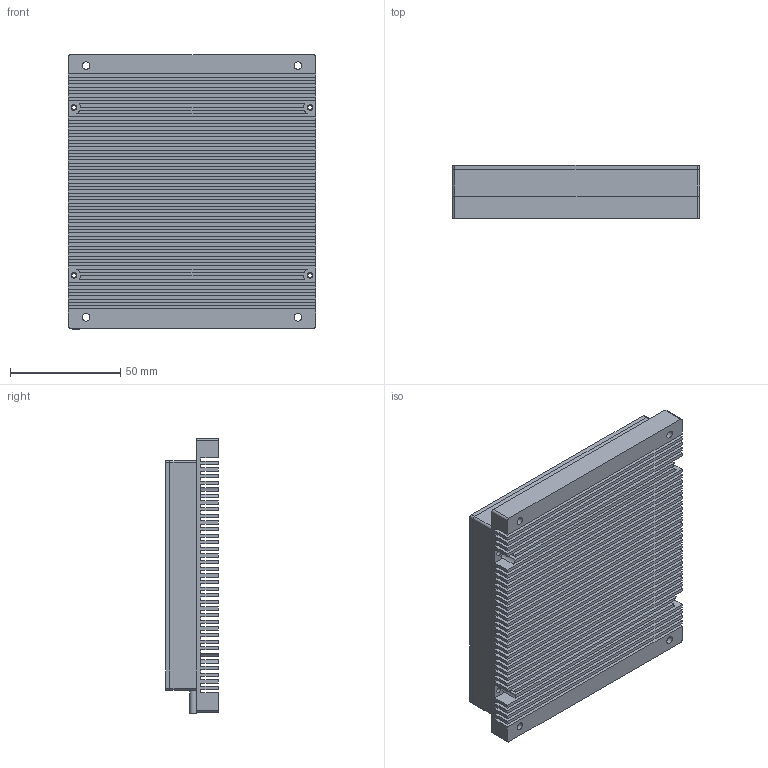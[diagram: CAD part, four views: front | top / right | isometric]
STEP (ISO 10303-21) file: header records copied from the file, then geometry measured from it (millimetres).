
FILE_DESCRIPTION(/* description */ (''),/* implementation_level */ '2;1');
FILE_NAME(/* name */ 'C:\#Vault-WorkDir\Konstruktions-Dokumente\Projekte\Zubehör allgemein\Falcon Beleuchtungen\153-00762_LF 100 xD-24-KFL5.stp',/* time_stamp */ '2018-07-25T10:39:28+02:00',/* author */ ('SensoPart'),/* organization */ ('SensoPart'),/* preprocessor_version */ 'ST-DEVELOPER v17',/* originating_system */ 'Autodesk Inventor 2018',/* authorisation */ '');
FILE_SCHEMA (('AUTOMOTIVE_DESIGN { 1 0 10303 214 3 1 1 }'));
Length unit declared in the file: millimetre
Products named in the file (1): GH-ENG-0026195
Bounding box: 112 x 24 x 124.5 mm (x, y, z)
Volume: 131254.1 mm3; surface area: 128336.2 mm2
Topology: 2 solids, 2 shells, 247 faces, 717 edges, 490 vertices
Faces by surface type: plane 186, cylinder 49, cone 12
Full cylindrical faces by diameter (mm): 2 x4, 2.3 x4, 2.5 x4, 3.1 x1, 3.5 x4, 6 x4
Entity records: 8562 total; most frequent: CARTESIAN_POINT 1467, ORIENTED_EDGE 1446, DIRECTION 1380, EDGE_CURVE 723, LINE 562, VECTOR 562, VERTEX_POINT 496, AXIS2_PLACEMENT_3D 409
